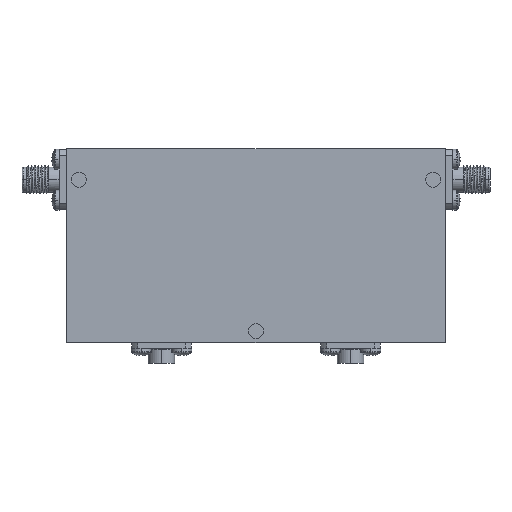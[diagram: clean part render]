
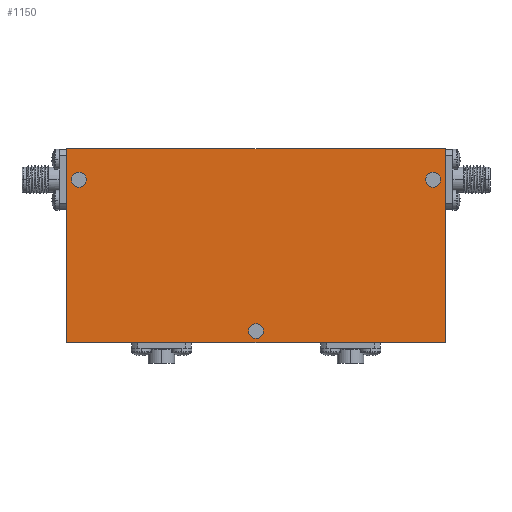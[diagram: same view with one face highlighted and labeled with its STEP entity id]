
A CAD part, top view. The second image highlights one B-rep face of the part: STEP entity #1150.
In plain terms, the highlighted planar face has unit normal (0, 0, 1).
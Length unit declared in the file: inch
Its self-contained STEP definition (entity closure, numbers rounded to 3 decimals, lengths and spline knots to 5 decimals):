
#58 = VERTEX_POINT ( 'NONE', #3203 ) ;
#63 = CARTESIAN_POINT ( 'NONE',  ( -1.48, 0.55, 0.365 ) ) ;
#93 = CIRCLE ( 'NONE', #4137, 0.0625 ) ;
#229 = VECTOR ( 'NONE', #3666, 39.37008 ) ;
#230 = AXIS2_PLACEMENT_3D ( 'NONE', #1825, #3328, #1065 ) ;
#265 = DIRECTION ( 'NONE',  ( 0., 0., 1. ) ) ;
#436 = EDGE_CURVE ( 'NONE', #3948, #1628, #454, .T. ) ;
#447 = CIRCLE ( 'NONE', #2600, 0.0625 ) ;
#454 = CIRCLE ( 'NONE', #3610, 0.0625 ) ;
#509 = EDGE_CURVE ( 'NONE', #1628, #3948, #93, .T. ) ;
#630 = ORIENTED_EDGE ( 'NONE', *, *, #3902, .F. ) ;
#654 = CARTESIAN_POINT ( 'NONE',  ( 1.58, 0.81, 0.365 ) ) ;
#785 = CARTESIAN_POINT ( 'NONE',  ( -1.48, 0.55, 0.365 ) ) ;
#824 = DIRECTION ( 'NONE',  ( 1., 0., 0. ) ) ;
#879 = EDGE_LOOP ( 'NONE', ( #2625, #2882 ) ) ;
#999 = DIRECTION ( 'NONE',  ( 0., 0., 1. ) ) ;
#1065 = DIRECTION ( 'NONE',  ( 1., 0., 0. ) ) ;
#1092 = VERTEX_POINT ( 'NONE', #654 ) ;
#1142 = FACE_BOUND ( 'NONE', #879, .T. ) ;
#1150 = ADVANCED_FACE ( 'NONE', ( #2973, #1142, #1676, #1734 ), #4755, .T. ) ;
#1386 = DIRECTION ( 'NONE',  ( 1., 0., 0. ) ) ;
#1390 = ORIENTED_EDGE ( 'NONE', *, *, #3475, .T. ) ;
#1564 = VECTOR ( 'NONE', #1943, 39.37008 ) ;
#1628 = VERTEX_POINT ( 'NONE', #3906 ) ;
#1661 = CARTESIAN_POINT ( 'NONE',  ( 1.5425, 0.55, 0.365 ) ) ;
#1675 = ORIENTED_EDGE ( 'NONE', *, *, #2830, .F. ) ;
#1676 = FACE_BOUND ( 'NONE', #2755, .T. ) ;
#1706 = EDGE_LOOP ( 'NONE', ( #1390, #2701, #2453, #3815 ) ) ;
#1724 = CARTESIAN_POINT ( 'NONE',  ( -1.58, 0.81, 0.365 ) ) ;
#1734 = FACE_OUTER_BOUND ( 'NONE', #1706, .T. ) ;
#1746 = VECTOR ( 'NONE', #1386, 39.37008 ) ;
#1825 = CARTESIAN_POINT ( 'NONE',  ( 1.48, 0.55, 0.365 ) ) ;
#1848 = EDGE_CURVE ( 'NONE', #1092, #2071, #4690, .T. ) ;
#1853 = CARTESIAN_POINT ( 'NONE',  ( 1.48, 0.55, 0.365 ) ) ;
#1943 = DIRECTION ( 'NONE',  ( 0., -1., 0. ) ) ;
#1983 = DIRECTION ( 'NONE',  ( 0., 0., 1. ) ) ;
#1985 = EDGE_CURVE ( 'NONE', #2971, #3037, #2507, .T. ) ;
#2023 = EDGE_CURVE ( 'NONE', #3110, #2936, #2228, .T. ) ;
#2071 = VERTEX_POINT ( 'NONE', #3063 ) ;
#2149 = CARTESIAN_POINT ( 'NONE',  ( 0., 0., 0.365 ) ) ;
#2151 = DIRECTION ( 'NONE',  ( 1., 0., 0. ) ) ;
#2172 = CARTESIAN_POINT ( 'NONE',  ( 0., -0.715, 0.365 ) ) ;
#2228 = CIRCLE ( 'NONE', #3013, 0.0625 ) ;
#2240 = DIRECTION ( 'NONE',  ( 1., 0., 0. ) ) ;
#2343 = DIRECTION ( 'NONE',  ( 0., 0., 1. ) ) ;
#2393 = VERTEX_POINT ( 'NONE', #2476 ) ;
#2399 = CIRCLE ( 'NONE', #3949, 0.0625 ) ;
#2453 = ORIENTED_EDGE ( 'NONE', *, *, #4157, .T. ) ;
#2476 = CARTESIAN_POINT ( 'NONE',  ( -1.58, -0.81, 0.365 ) ) ;
#2507 = CIRCLE ( 'NONE', #230, 0.0625 ) ;
#2600 = AXIS2_PLACEMENT_3D ( 'NONE', #1853, #2995, #2240 ) ;
#2625 = ORIENTED_EDGE ( 'NONE', *, *, #509, .F. ) ;
#2636 = DIRECTION ( 'NONE',  ( 1., 0., 0. ) ) ;
#2701 = ORIENTED_EDGE ( 'NONE', *, *, #1848, .T. ) ;
#2703 = CARTESIAN_POINT ( 'NONE',  ( 0., -0.715, 0.365 ) ) ;
#2755 = EDGE_LOOP ( 'NONE', ( #3492, #1675 ) ) ;
#2830 = EDGE_CURVE ( 'NONE', #2936, #3110, #2399, .T. ) ;
#2882 = ORIENTED_EDGE ( 'NONE', *, *, #436, .F. ) ;
#2936 = VERTEX_POINT ( 'NONE', #4575 ) ;
#2971 = VERTEX_POINT ( 'NONE', #4252 ) ;
#2973 = FACE_BOUND ( 'NONE', #3179, .T. ) ;
#2995 = DIRECTION ( 'NONE',  ( 0., 0., 1. ) ) ;
#3013 = AXIS2_PLACEMENT_3D ( 'NONE', #63, #3800, #2636 ) ;
#3037 = VERTEX_POINT ( 'NONE', #1661 ) ;
#3063 = CARTESIAN_POINT ( 'NONE',  ( -1.58, 0.81, 0.365 ) ) ;
#3086 = DIRECTION ( 'NONE',  ( 1., 0., 0. ) ) ;
#3110 = VERTEX_POINT ( 'NONE', #4300 ) ;
#3179 = EDGE_LOOP ( 'NONE', ( #630, #3462 ) ) ;
#3203 = CARTESIAN_POINT ( 'NONE',  ( 1.58, -0.81, 0.365 ) ) ;
#3279 = LINE ( 'NONE', #4148, #1564 ) ;
#3296 = EDGE_CURVE ( 'NONE', #2393, #58, #4255, .T. ) ;
#3328 = DIRECTION ( 'NONE',  ( 0., 0., 1. ) ) ;
#3406 = LINE ( 'NONE', #4583, #3701 ) ;
#3462 = ORIENTED_EDGE ( 'NONE', *, *, #1985, .F. ) ;
#3475 = EDGE_CURVE ( 'NONE', #58, #1092, #3406, .T. ) ;
#3492 = ORIENTED_EDGE ( 'NONE', *, *, #2023, .F. ) ;
#3564 = CARTESIAN_POINT ( 'NONE',  ( -0.0625, -0.715, 0.365 ) ) ;
#3610 = AXIS2_PLACEMENT_3D ( 'NONE', #2703, #1983, #824 ) ;
#3631 = CARTESIAN_POINT ( 'NONE',  ( -1.58, -0.81, 0.365 ) ) ;
#3666 = DIRECTION ( 'NONE',  ( -1., 0., 0. ) ) ;
#3701 = VECTOR ( 'NONE', #3820, 39.37008 ) ;
#3800 = DIRECTION ( 'NONE',  ( 0., 0., 1. ) ) ;
#3815 = ORIENTED_EDGE ( 'NONE', *, *, #3296, .T. ) ;
#3820 = DIRECTION ( 'NONE',  ( 0., 1., 0. ) ) ;
#3902 = EDGE_CURVE ( 'NONE', #3037, #2971, #447, .T. ) ;
#3906 = CARTESIAN_POINT ( 'NONE',  ( 0.0625, -0.715, 0.365 ) ) ;
#3948 = VERTEX_POINT ( 'NONE', #3564 ) ;
#3949 = AXIS2_PLACEMENT_3D ( 'NONE', #785, #2343, #3086 ) ;
#4108 = AXIS2_PLACEMENT_3D ( 'NONE', #2149, #265, #4769 ) ;
#4137 = AXIS2_PLACEMENT_3D ( 'NONE', #2172, #999, #2151 ) ;
#4148 = CARTESIAN_POINT ( 'NONE',  ( -1.58, 0.81, 0.365 ) ) ;
#4157 = EDGE_CURVE ( 'NONE', #2071, #2393, #3279, .T. ) ;
#4252 = CARTESIAN_POINT ( 'NONE',  ( 1.4175, 0.55, 0.365 ) ) ;
#4255 = LINE ( 'NONE', #3631, #1746 ) ;
#4300 = CARTESIAN_POINT ( 'NONE',  ( -1.4175, 0.55, 0.365 ) ) ;
#4575 = CARTESIAN_POINT ( 'NONE',  ( -1.5425, 0.55, 0.365 ) ) ;
#4583 = CARTESIAN_POINT ( 'NONE',  ( 1.58, 0.81, 0.365 ) ) ;
#4690 = LINE ( 'NONE', #1724, #229 ) ;
#4755 = PLANE ( 'NONE',  #4108 ) ;
#4769 = DIRECTION ( 'NONE',  ( 1., 0., 0. ) ) ;
